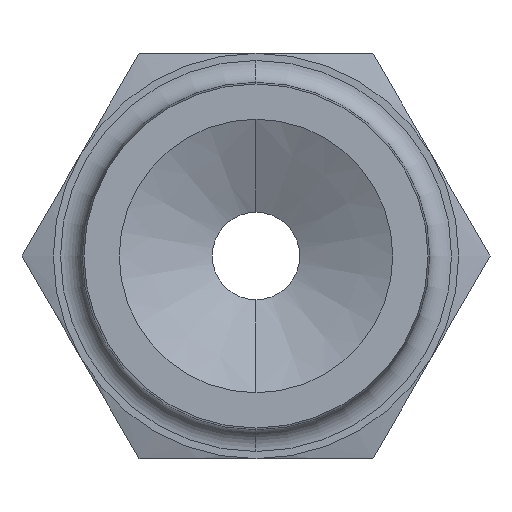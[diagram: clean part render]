
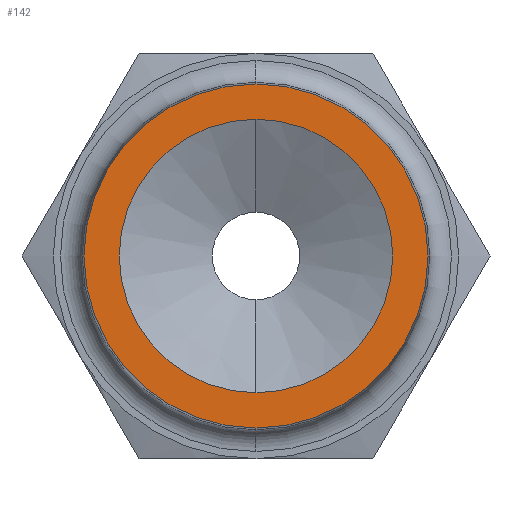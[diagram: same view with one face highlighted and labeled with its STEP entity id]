
A CAD part, left-side view. The second image highlights one B-rep face of the part: STEP entity #142.
In plain terms, the highlighted planar face has unit normal (-1, 0, 0).
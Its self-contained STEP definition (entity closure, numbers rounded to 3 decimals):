
#118 = ORIENTED_EDGE ( 'NONE', *, *, #141, .F. ) ;
#119 = ORIENTED_EDGE ( 'NONE', *, *, #538, .F. ) ;
#141 = EDGE_CURVE ( 'NONE', #547, #539, #877, .T. ) ;
#142 = ADVANCED_FACE ( 'NONE', ( #872, #871 ), #870, .T. ) ;
#143 = EDGE_LOOP ( 'NONE', ( #144, #146 ) ) ;
#144 = ORIENTED_EDGE ( 'NONE', *, *, #145, .T. ) ;
#145 = EDGE_CURVE ( 'NONE', #647, #646, #836, .T. ) ;
#146 = ORIENTED_EDGE ( 'NONE', *, *, #645, .T. ) ;
#147 = EDGE_LOOP ( 'NONE', ( #118, #119 ) ) ;
#538 = EDGE_CURVE ( 'NONE', #539, #547, #1385, .T. ) ;
#539 = VERTEX_POINT ( 'NONE', #1374 ) ;
#547 = VERTEX_POINT ( 'NONE', #1740 ) ;
#645 = EDGE_CURVE ( 'NONE', #646, #647, #1830, .T. ) ;
#646 = VERTEX_POINT ( 'NONE', #1850 ) ;
#647 = VERTEX_POINT ( 'NONE', #1849 ) ;
#832 = DIRECTION ( 'NONE',  ( 0., 0., 1. ) ) ;
#833 = DIRECTION ( 'NONE',  ( -1., 0., 0. ) ) ;
#834 = CARTESIAN_POINT ( 'NONE',  ( -25.2, 0., 0. ) ) ;
#835 = AXIS2_PLACEMENT_3D ( 'NONE', #834, #833, #832 ) ;
#836 = CIRCLE ( 'NONE', #835, 9.434 ) ;
#866 = DIRECTION ( 'NONE',  ( 0., 0., 1. ) ) ;
#867 = DIRECTION ( 'NONE',  ( -1., 0., 0. ) ) ;
#868 = AXIS2_PLACEMENT_3D ( 'NONE', #869, #867, #866 ) ;
#869 = CARTESIAN_POINT ( 'NONE',  ( -25.2, 0., 0. ) ) ;
#870 = PLANE ( 'NONE',  #868 ) ;
#871 = FACE_BOUND ( 'NONE', #147, .T. ) ;
#872 = FACE_OUTER_BOUND ( 'NONE', #143, .T. ) ;
#873 = DIRECTION ( 'NONE',  ( 0., 0., 1. ) ) ;
#874 = DIRECTION ( 'NONE',  ( -1., 0., 0. ) ) ;
#875 = CARTESIAN_POINT ( 'NONE',  ( -25.2, 0., 0. ) ) ;
#876 = AXIS2_PLACEMENT_3D ( 'NONE', #875, #874, #873 ) ;
#877 = CIRCLE ( 'NONE', #876, 7.5 ) ;
#1374 = CARTESIAN_POINT ( 'NONE',  ( -25.2, 0., -7.5 ) ) ;
#1375 = DIRECTION ( 'NONE',  ( 0., 0., 1. ) ) ;
#1376 = DIRECTION ( 'NONE',  ( -1., 0., 0. ) ) ;
#1377 = CARTESIAN_POINT ( 'NONE',  ( -25.2, 0., 0. ) ) ;
#1378 = AXIS2_PLACEMENT_3D ( 'NONE', #1377, #1376, #1375 ) ;
#1385 = CIRCLE ( 'NONE', #1378, 7.5 ) ;
#1740 = CARTESIAN_POINT ( 'NONE',  ( -25.2, 0., 7.5 ) ) ;
#1822 = DIRECTION ( 'NONE',  ( -1., 0., 0. ) ) ;
#1823 = CARTESIAN_POINT ( 'NONE',  ( -25.2, 0., 0. ) ) ;
#1824 = AXIS2_PLACEMENT_3D ( 'NONE', #1823, #1822, #1851 ) ;
#1830 = CIRCLE ( 'NONE', #1824, 9.434 ) ;
#1849 = CARTESIAN_POINT ( 'NONE',  ( -25.2, 0., 9.434 ) ) ;
#1850 = CARTESIAN_POINT ( 'NONE',  ( -25.2, 0., -9.434 ) ) ;
#1851 = DIRECTION ( 'NONE',  ( 0., 0., 1. ) ) ;
